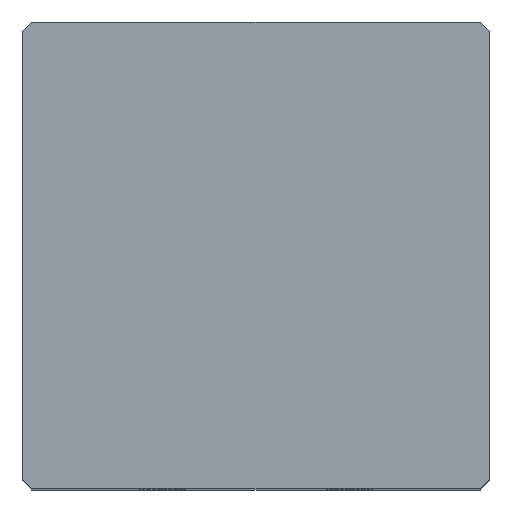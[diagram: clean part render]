
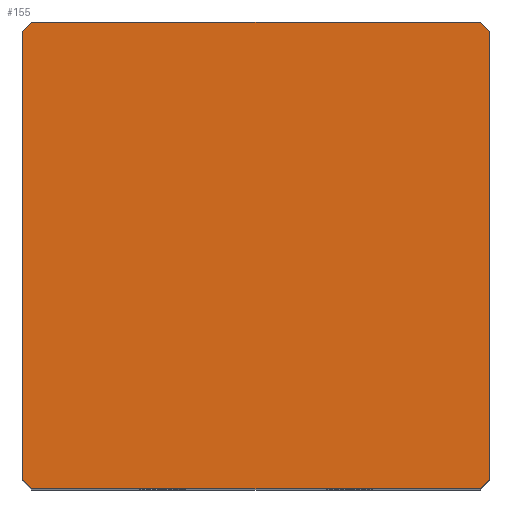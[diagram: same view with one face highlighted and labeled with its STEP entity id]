
A CAD part, top view. The second image highlights one B-rep face of the part: STEP entity #155.
In plain terms, the highlighted planar face has unit normal (0, 0, 1).
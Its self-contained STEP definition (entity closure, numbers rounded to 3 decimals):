
#39 = EDGE_CURVE('',#40,#42,#44,.T.);
#40 = VERTEX_POINT('',#41);
#41 = CARTESIAN_POINT('',(-10.,-9.6,32.25));
#42 = VERTEX_POINT('',#43);
#43 = CARTESIAN_POINT('',(-10.,9.6,32.25));
#44 = SURFACE_CURVE('',#45,(#49,#61),.PCURVE_S1.);
#45 = LINE('',#46,#47);
#46 = CARTESIAN_POINT('',(-10.,-10.,32.25));
#47 = VECTOR('',#48,1.);
#48 = DIRECTION('',(-0.,1.,0.));
#49 = PCURVE('',#50,#55);
#50 = PLANE('',#51);
#51 = AXIS2_PLACEMENT_3D('',#52,#53,#54);
#52 = CARTESIAN_POINT('',(-10.,-10.,0.));
#53 = DIRECTION('',(1.,0.,-0.));
#54 = DIRECTION('',(0.,0.,1.));
#55 = DEFINITIONAL_REPRESENTATION('',(#56),#60);
#56 = LINE('',#57,#58);
#57 = CARTESIAN_POINT('',(32.25,0.));
#58 = VECTOR('',#59,1.);
#59 = DIRECTION('',(0.,-1.));
#60 = ( GEOMETRIC_REPRESENTATION_CONTEXT(2) 
PARAMETRIC_REPRESENTATION_CONTEXT() REPRESENTATION_CONTEXT('2D SPACE',''
  ) );
#61 = PCURVE('',#62,#67);
#62 = PLANE('',#63);
#63 = AXIS2_PLACEMENT_3D('',#64,#65,#66);
#64 = CARTESIAN_POINT('',(-10.,-10.,32.25));
#65 = DIRECTION('',(0.,0.,1.));
#66 = DIRECTION('',(1.,0.,-0.));
#67 = DEFINITIONAL_REPRESENTATION('',(#68),#72);
#68 = LINE('',#69,#70);
#69 = CARTESIAN_POINT('',(0.,0.));
#70 = VECTOR('',#71,1.);
#71 = DIRECTION('',(0.,1.));
#72 = ( GEOMETRIC_REPRESENTATION_CONTEXT(2) 
PARAMETRIC_REPRESENTATION_CONTEXT() REPRESENTATION_CONTEXT('2D SPACE',''
  ) );
#90 = PLANE('',#91);
#91 = AXIS2_PLACEMENT_3D('',#92,#93,#94);
#92 = CARTESIAN_POINT('',(-9.8,-9.8,0.));
#93 = DIRECTION('',(-0.707,-0.707,0.));
#94 = DIRECTION('',(-0.,-0.,-1.));
#144 = PLANE('',#145);
#145 = AXIS2_PLACEMENT_3D('',#146,#147,#148);
#146 = CARTESIAN_POINT('',(-9.8,9.8,0.));
#147 = DIRECTION('',(0.707,-0.707,0.));
#148 = DIRECTION('',(-0.,-0.,-1.));
#155 = ADVANCED_FACE('',(#156),#62,.T.);
#156 = FACE_BOUND('',#157,.T.);
#157 = EDGE_LOOP('',(#158,#159,#182,#210,#238,#266,#294,#322));
#158 = ORIENTED_EDGE('',*,*,#39,.F.);
#159 = ORIENTED_EDGE('',*,*,#160,.T.);
#160 = EDGE_CURVE('',#40,#161,#163,.T.);
#161 = VERTEX_POINT('',#162);
#162 = CARTESIAN_POINT('',(-9.6,-10.,32.25));
#163 = SURFACE_CURVE('',#164,(#168,#175),.PCURVE_S1.);
#164 = LINE('',#165,#166);
#165 = CARTESIAN_POINT('',(-9.8,-9.8,32.25));
#166 = VECTOR('',#167,1.);
#167 = DIRECTION('',(0.707,-0.707,0.));
#168 = PCURVE('',#62,#169);
#169 = DEFINITIONAL_REPRESENTATION('',(#170),#174);
#170 = LINE('',#171,#172);
#171 = CARTESIAN_POINT('',(0.2,0.2));
#172 = VECTOR('',#173,1.);
#173 = DIRECTION('',(0.707,-0.707));
#174 = ( GEOMETRIC_REPRESENTATION_CONTEXT(2) 
PARAMETRIC_REPRESENTATION_CONTEXT() REPRESENTATION_CONTEXT('2D SPACE',''
  ) );
#175 = PCURVE('',#90,#176);
#176 = DEFINITIONAL_REPRESENTATION('',(#177),#181);
#177 = LINE('',#178,#179);
#178 = CARTESIAN_POINT('',(-32.25,0.));
#179 = VECTOR('',#180,1.);
#180 = DIRECTION('',(-0.,1.));
#181 = ( GEOMETRIC_REPRESENTATION_CONTEXT(2) 
PARAMETRIC_REPRESENTATION_CONTEXT() REPRESENTATION_CONTEXT('2D SPACE',''
  ) );
#182 = ORIENTED_EDGE('',*,*,#183,.T.);
#183 = EDGE_CURVE('',#161,#184,#186,.T.);
#184 = VERTEX_POINT('',#185);
#185 = CARTESIAN_POINT('',(9.6,-10.,32.25));
#186 = SURFACE_CURVE('',#187,(#191,#198),.PCURVE_S1.);
#187 = LINE('',#188,#189);
#188 = CARTESIAN_POINT('',(-10.,-10.,32.25));
#189 = VECTOR('',#190,1.);
#190 = DIRECTION('',(1.,0.,-0.));
#191 = PCURVE('',#62,#192);
#192 = DEFINITIONAL_REPRESENTATION('',(#193),#197);
#193 = LINE('',#194,#195);
#194 = CARTESIAN_POINT('',(0.,0.));
#195 = VECTOR('',#196,1.);
#196 = DIRECTION('',(1.,0.));
#197 = ( GEOMETRIC_REPRESENTATION_CONTEXT(2) 
PARAMETRIC_REPRESENTATION_CONTEXT() REPRESENTATION_CONTEXT('2D SPACE',''
  ) );
#198 = PCURVE('',#199,#204);
#199 = PLANE('',#200);
#200 = AXIS2_PLACEMENT_3D('',#201,#202,#203);
#201 = CARTESIAN_POINT('',(-10.,-10.,0.));
#202 = DIRECTION('',(-0.,1.,0.));
#203 = DIRECTION('',(0.,0.,1.));
#204 = DEFINITIONAL_REPRESENTATION('',(#205),#209);
#205 = LINE('',#206,#207);
#206 = CARTESIAN_POINT('',(32.25,0.));
#207 = VECTOR('',#208,1.);
#208 = DIRECTION('',(0.,1.));
#209 = ( GEOMETRIC_REPRESENTATION_CONTEXT(2) 
PARAMETRIC_REPRESENTATION_CONTEXT() REPRESENTATION_CONTEXT('2D SPACE',''
  ) );
#210 = ORIENTED_EDGE('',*,*,#211,.F.);
#211 = EDGE_CURVE('',#212,#184,#214,.T.);
#212 = VERTEX_POINT('',#213);
#213 = CARTESIAN_POINT('',(10.,-9.6,32.25));
#214 = SURFACE_CURVE('',#215,(#219,#226),.PCURVE_S1.);
#215 = LINE('',#216,#217);
#216 = CARTESIAN_POINT('',(4.8,-14.8,32.25));
#217 = VECTOR('',#218,1.);
#218 = DIRECTION('',(-0.707,-0.707,0.));
#219 = PCURVE('',#62,#220);
#220 = DEFINITIONAL_REPRESENTATION('',(#221),#225);
#221 = LINE('',#222,#223);
#222 = CARTESIAN_POINT('',(14.8,-4.8));
#223 = VECTOR('',#224,1.);
#224 = DIRECTION('',(-0.707,-0.707));
#225 = ( GEOMETRIC_REPRESENTATION_CONTEXT(2) 
PARAMETRIC_REPRESENTATION_CONTEXT() REPRESENTATION_CONTEXT('2D SPACE',''
  ) );
#226 = PCURVE('',#227,#232);
#227 = PLANE('',#228);
#228 = AXIS2_PLACEMENT_3D('',#229,#230,#231);
#229 = CARTESIAN_POINT('',(9.8,-9.8,0.));
#230 = DIRECTION('',(-0.707,0.707,0.));
#231 = DIRECTION('',(-0.,-0.,-1.));
#232 = DEFINITIONAL_REPRESENTATION('',(#233),#237);
#233 = LINE('',#234,#235);
#234 = CARTESIAN_POINT('',(-32.25,7.071));
#235 = VECTOR('',#236,1.);
#236 = DIRECTION('',(-0.,1.));
#237 = ( GEOMETRIC_REPRESENTATION_CONTEXT(2) 
PARAMETRIC_REPRESENTATION_CONTEXT() REPRESENTATION_CONTEXT('2D SPACE',''
  ) );
#238 = ORIENTED_EDGE('',*,*,#239,.T.);
#239 = EDGE_CURVE('',#212,#240,#242,.T.);
#240 = VERTEX_POINT('',#241);
#241 = CARTESIAN_POINT('',(10.,9.6,32.25));
#242 = SURFACE_CURVE('',#243,(#247,#254),.PCURVE_S1.);
#243 = LINE('',#244,#245);
#244 = CARTESIAN_POINT('',(10.,-10.,32.25));
#245 = VECTOR('',#246,1.);
#246 = DIRECTION('',(-0.,1.,0.));
#247 = PCURVE('',#62,#248);
#248 = DEFINITIONAL_REPRESENTATION('',(#249),#253);
#249 = LINE('',#250,#251);
#250 = CARTESIAN_POINT('',(20.,0.));
#251 = VECTOR('',#252,1.);
#252 = DIRECTION('',(0.,1.));
#253 = ( GEOMETRIC_REPRESENTATION_CONTEXT(2) 
PARAMETRIC_REPRESENTATION_CONTEXT() REPRESENTATION_CONTEXT('2D SPACE',''
  ) );
#254 = PCURVE('',#255,#260);
#255 = PLANE('',#256);
#256 = AXIS2_PLACEMENT_3D('',#257,#258,#259);
#257 = CARTESIAN_POINT('',(10.,-10.,0.));
#258 = DIRECTION('',(1.,0.,-0.));
#259 = DIRECTION('',(0.,0.,1.));
#260 = DEFINITIONAL_REPRESENTATION('',(#261),#265);
#261 = LINE('',#262,#263);
#262 = CARTESIAN_POINT('',(32.25,0.));
#263 = VECTOR('',#264,1.);
#264 = DIRECTION('',(0.,-1.));
#265 = ( GEOMETRIC_REPRESENTATION_CONTEXT(2) 
PARAMETRIC_REPRESENTATION_CONTEXT() REPRESENTATION_CONTEXT('2D SPACE',''
  ) );
#266 = ORIENTED_EDGE('',*,*,#267,.T.);
#267 = EDGE_CURVE('',#240,#268,#270,.T.);
#268 = VERTEX_POINT('',#269);
#269 = CARTESIAN_POINT('',(9.6,10.,32.25));
#270 = SURFACE_CURVE('',#271,(#275,#282),.PCURVE_S1.);
#271 = LINE('',#272,#273);
#272 = CARTESIAN_POINT('',(9.8,9.8,32.25));
#273 = VECTOR('',#274,1.);
#274 = DIRECTION('',(-0.707,0.707,0.));
#275 = PCURVE('',#62,#276);
#276 = DEFINITIONAL_REPRESENTATION('',(#277),#281);
#277 = LINE('',#278,#279);
#278 = CARTESIAN_POINT('',(19.8,19.8));
#279 = VECTOR('',#280,1.);
#280 = DIRECTION('',(-0.707,0.707));
#281 = ( GEOMETRIC_REPRESENTATION_CONTEXT(2) 
PARAMETRIC_REPRESENTATION_CONTEXT() REPRESENTATION_CONTEXT('2D SPACE',''
  ) );
#282 = PCURVE('',#283,#288);
#283 = PLANE('',#284);
#284 = AXIS2_PLACEMENT_3D('',#285,#286,#287);
#285 = CARTESIAN_POINT('',(9.8,9.8,0.));
#286 = DIRECTION('',(0.707,0.707,0.));
#287 = DIRECTION('',(-0.,0.,-1.));
#288 = DEFINITIONAL_REPRESENTATION('',(#289),#293);
#289 = LINE('',#290,#291);
#290 = CARTESIAN_POINT('',(-32.25,0.));
#291 = VECTOR('',#292,1.);
#292 = DIRECTION('',(-0.,1.));
#293 = ( GEOMETRIC_REPRESENTATION_CONTEXT(2) 
PARAMETRIC_REPRESENTATION_CONTEXT() REPRESENTATION_CONTEXT('2D SPACE',''
  ) );
#294 = ORIENTED_EDGE('',*,*,#295,.F.);
#295 = EDGE_CURVE('',#296,#268,#298,.T.);
#296 = VERTEX_POINT('',#297);
#297 = CARTESIAN_POINT('',(-9.6,10.,32.25));
#298 = SURFACE_CURVE('',#299,(#303,#310),.PCURVE_S1.);
#299 = LINE('',#300,#301);
#300 = CARTESIAN_POINT('',(-10.,10.,32.25));
#301 = VECTOR('',#302,1.);
#302 = DIRECTION('',(1.,0.,-0.));
#303 = PCURVE('',#62,#304);
#304 = DEFINITIONAL_REPRESENTATION('',(#305),#309);
#305 = LINE('',#306,#307);
#306 = CARTESIAN_POINT('',(0.,20.));
#307 = VECTOR('',#308,1.);
#308 = DIRECTION('',(1.,0.));
#309 = ( GEOMETRIC_REPRESENTATION_CONTEXT(2) 
PARAMETRIC_REPRESENTATION_CONTEXT() REPRESENTATION_CONTEXT('2D SPACE',''
  ) );
#310 = PCURVE('',#311,#316);
#311 = PLANE('',#312);
#312 = AXIS2_PLACEMENT_3D('',#313,#314,#315);
#313 = CARTESIAN_POINT('',(-10.,10.,0.));
#314 = DIRECTION('',(-0.,1.,0.));
#315 = DIRECTION('',(0.,0.,1.));
#316 = DEFINITIONAL_REPRESENTATION('',(#317),#321);
#317 = LINE('',#318,#319);
#318 = CARTESIAN_POINT('',(32.25,0.));
#319 = VECTOR('',#320,1.);
#320 = DIRECTION('',(0.,1.));
#321 = ( GEOMETRIC_REPRESENTATION_CONTEXT(2) 
PARAMETRIC_REPRESENTATION_CONTEXT() REPRESENTATION_CONTEXT('2D SPACE',''
  ) );
#322 = ORIENTED_EDGE('',*,*,#323,.F.);
#323 = EDGE_CURVE('',#42,#296,#324,.T.);
#324 = SURFACE_CURVE('',#325,(#329,#336),.PCURVE_S1.);
#325 = LINE('',#326,#327);
#326 = CARTESIAN_POINT('',(-14.8,4.8,32.25));
#327 = VECTOR('',#328,1.);
#328 = DIRECTION('',(0.707,0.707,-0.));
#329 = PCURVE('',#62,#330);
#330 = DEFINITIONAL_REPRESENTATION('',(#331),#335);
#331 = LINE('',#332,#333);
#332 = CARTESIAN_POINT('',(-4.8,14.8));
#333 = VECTOR('',#334,1.);
#334 = DIRECTION('',(0.707,0.707));
#335 = ( GEOMETRIC_REPRESENTATION_CONTEXT(2) 
PARAMETRIC_REPRESENTATION_CONTEXT() REPRESENTATION_CONTEXT('2D SPACE',''
  ) );
#336 = PCURVE('',#144,#337);
#337 = DEFINITIONAL_REPRESENTATION('',(#338),#342);
#338 = LINE('',#339,#340);
#339 = CARTESIAN_POINT('',(-32.25,-7.071));
#340 = VECTOR('',#341,1.);
#341 = DIRECTION('',(-0.,1.));
#342 = ( GEOMETRIC_REPRESENTATION_CONTEXT(2) 
PARAMETRIC_REPRESENTATION_CONTEXT() REPRESENTATION_CONTEXT('2D SPACE',''
  ) );
